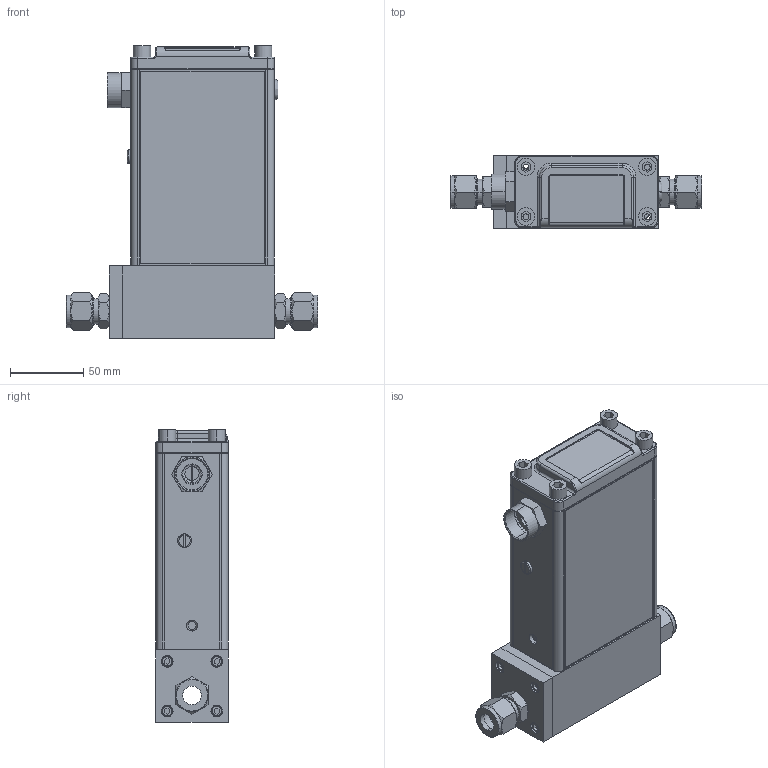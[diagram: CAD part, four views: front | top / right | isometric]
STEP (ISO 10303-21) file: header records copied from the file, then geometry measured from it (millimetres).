
FILE_DESCRIPTION (( 'STEP AP203' ), '1' );
FILE_NAME ('SLAMF61-S-1P-0-K-REVB.STEP', '2017-08-01T14:31:01', ( 'mrutkowski' ), ( 'Hewlett-Packard Company' ), 'SwSTEP 2.0', 'SolidWorks 2017', '' );
FILE_SCHEMA (( 'CONFIG_CONTROL_DESIGN' ));
Length unit declared in the file: inch
Products named in the file (1): SLAMF61-S-1P-0-K-REVB
Bounding box: 171.62 x 49.5 x 199.98 mm (x, y, z)
Surface area: 103671.3 mm2 (no closed solid volume)
Topology: 0 solids, 116 shells, 577 faces, 1851 edges, 1382 vertices
Faces by surface type: plane 380, cylinder 97, cone 68, bspline 32
Entity records: 21966 total; most frequent: CARTESIAN_POINT 6140, DIRECTION 3180, ORIENTED_EDGE 2745, EDGE_CURVE 1847, VERTEX_POINT 1382, VECTOR 1292, LINE 1292, AXIS2_PLACEMENT_3D 944
